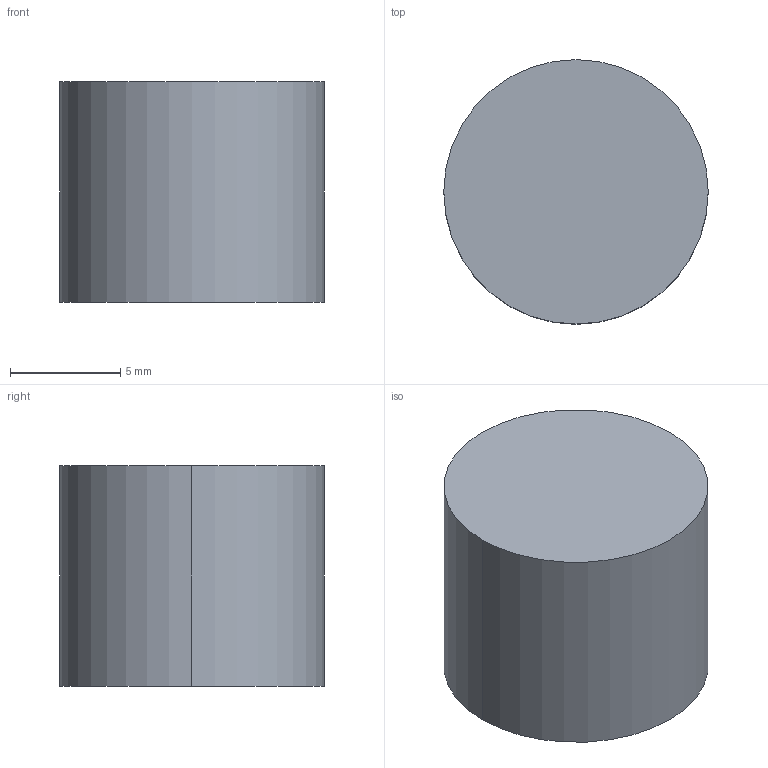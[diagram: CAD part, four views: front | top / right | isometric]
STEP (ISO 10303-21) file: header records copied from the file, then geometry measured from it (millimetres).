
FILE_DESCRIPTION (( 'STEP AP203' ), '1' );
FILE_NAME ('drp-120.STEP', '2021-10-21T07:52:41', ( '' ), ( '' ), 'SwSTEP 2.0', 'SolidWorks 2020', '' );
FILE_SCHEMA (( 'CONFIG_CONTROL_DESIGN' ));
Length unit declared in the file: millimetre
Products named in the file (1): drp-120
Bounding box: 12 x 12 x 10 mm (x, y, z)
Volume: 1032.8 mm3; surface area: 681.7 mm2
Topology: 1 solids, 1 shells, 7 faces, 12 edges, 8 vertices
Faces by surface type: cylinder 4, plane 3
Entity records: 251 total; most frequent: DIRECTION 36, CARTESIAN_POINT 28, ORIENTED_EDGE 24, AXIS2_PLACEMENT_3D 16, EDGE_CURVE 12, VERTEX_POINT 8, PERSON_AND_ORGANIZATION 8, EDGE_LOOP 8
